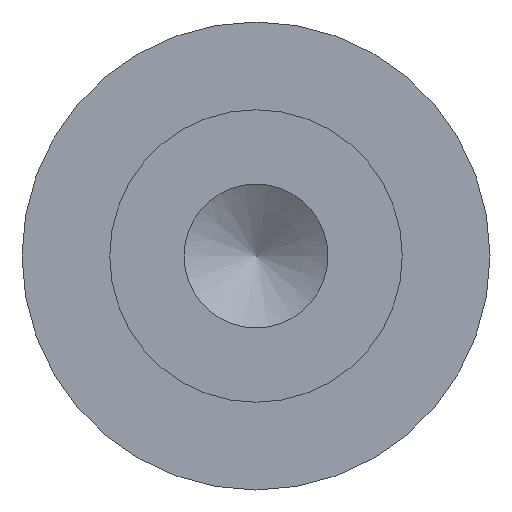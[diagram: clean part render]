
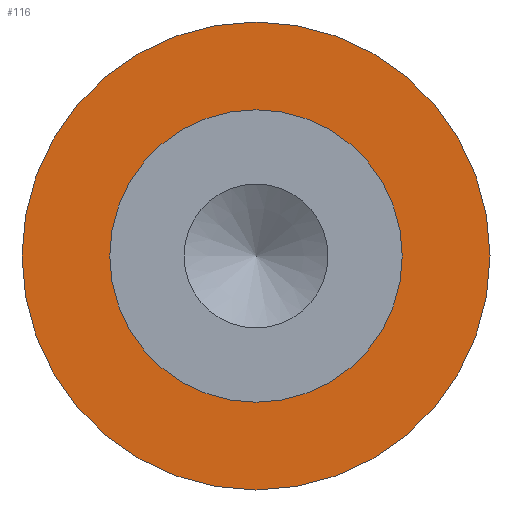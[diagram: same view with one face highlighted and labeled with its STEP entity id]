
A CAD part, front view. The second image highlights one B-rep face of the part: STEP entity #116.
In plain terms, the highlighted planar face has unit normal (0, -1, 0).
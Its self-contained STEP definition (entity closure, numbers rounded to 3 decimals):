
#16=FACE_BOUND('',#40,.T.);
#19=PLANE('',#155);
#30=FACE_OUTER_BOUND('',#39,.T.);
#39=EDGE_LOOP('',(#105));
#40=EDGE_LOOP('',(#106));
#54=CIRCLE('',#145,4.);
#58=CIRCLE('',#154,2.5);
#62=VERTEX_POINT('',#205);
#67=VERTEX_POINT('',#222);
#73=EDGE_CURVE('',#62,#62,#54,.T.);
#79=EDGE_CURVE('',#67,#67,#58,.T.);
#105=ORIENTED_EDGE('',*,*,#73,.F.);
#106=ORIENTED_EDGE('',*,*,#79,.T.);
#116=ADVANCED_FACE('',(#30,#16),#19,.T.);
#145=AXIS2_PLACEMENT_3D('',#207,#170,#171);
#154=AXIS2_PLACEMENT_3D('',#223,#190,#191);
#155=AXIS2_PLACEMENT_3D('',#225,#193,#194);
#170=DIRECTION('center_axis',(0.,1.,0.));
#171=DIRECTION('ref_axis',(1.,0.,0.));
#190=DIRECTION('center_axis',(0.,1.,0.));
#191=DIRECTION('ref_axis',(1.,0.,0.));
#193=DIRECTION('center_axis',(0.,-1.,0.));
#194=DIRECTION('ref_axis',(0.,0.,-1.));
#205=CARTESIAN_POINT('',(0.,4.,-4.));
#207=CARTESIAN_POINT('Origin',(0.,4.,0.));
#222=CARTESIAN_POINT('',(0.,4.,-2.5));
#223=CARTESIAN_POINT('Origin',(0.,4.,0.));
#225=CARTESIAN_POINT('Origin',(0.,4.,4.));
